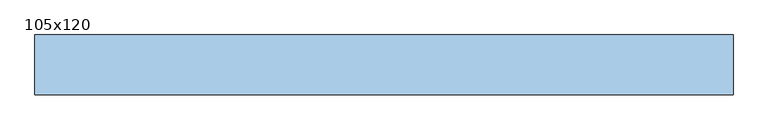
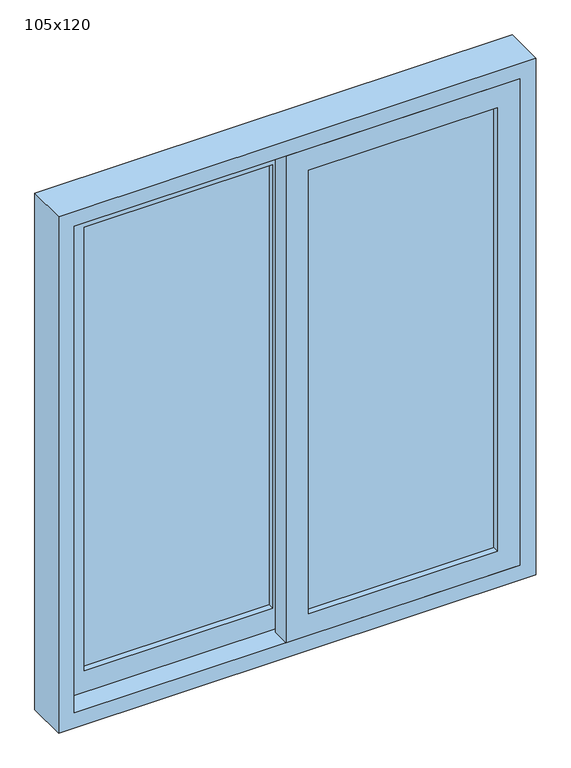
"""IFC4 building model written with IfcOpenShell, lengths in millimetres: window geometry, Janela de correr - 2 Painéis : 105x120."""

from ifc_helpers import new_model, si_unit, frame, origin, place, context, project, spatial, polyline, outline, extrude, source, transform, mapped, element, save


def window_105x120_428ac20c(model_context):
    return source(origin(), model_context, "Body", "SweptSolid", [
        extrude(outline(polyline([(1815.0, -25.0), (685.0, -25.0), (685.0, 490.0), (1815.0, 490.0), (1815.0, -25.0)]), holes=[polyline([(735.0, 25.0), (1765.0, 25.0), (1765.0, 440.0), (735.0, 440.0), (735.0, 25.0)])]), frame((0.0, -20.0, 0.0), z_axis=(0.0, 1.0, 0.0), x_axis=(0.0, 0.0, 1.0)), (0.0, 0.0, 1.0), 40.0),
        extrude(outline(polyline([(685.0, 25.0), (1815.0, 25.0), (1815.0, -490.0), (685.0, -490.0), (685.0, 25.0)]), holes=[polyline([(1765.0, -25.0), (735.0, -25.0), (735.0, -440.0), (1765.0, -440.0), (1765.0, -25.0)])]), frame((0.0, 30.0, 0.0), z_axis=(0.0, 1.0, 0.0), x_axis=(0.0, 0.0, 1.0)), (0.0, 0.0, 1.0), 40.0),
        extrude(outline(polyline([(650.0, 525.0), (1850.0, 525.0), (1850.0, -525.0), (650.0, -525.0), (650.0, 525.0)]), holes=[polyline([(1815.0, 490.0), (685.0, 490.0), (685.0, -490.0), (1815.0, -490.0), (1815.0, 490.0)])]), frame((0.0, -20.0, 0.0), z_axis=(0.0, 1.0, 0.0), x_axis=(0.0, 0.0, 1.0)), (0.0, 0.0, 1.0), 90.0),
        extrude(outline(polyline([(25.0, -7.0), (25.0, 7.0), (440.0, 7.0), (440.0, -7.0), (25.0, -7.0)])), frame((0.0, 0.0, 735.0), z_axis=(0.0, 0.0, 1.0), x_axis=(1.0, 0.0, 0.0)), (0.0, 0.0, 1.0), 1030.0),
        extrude(outline(polyline([(-440.0, 43.0), (-440.0, 57.0), (-25.0, 57.0), (-25.0, 43.0), (-440.0, 43.0)])), frame((0.0, 0.0, 735.0), z_axis=(0.0, 0.0, 1.0), x_axis=(1.0, 0.0, 0.0)), (0.0, 0.0, 1.0), 1030.0),
    ])


if __name__ == "__main__":
    model = new_model("IFC4")
    model_context = context("Model", 3, world=origin())
    ifc_project = project(units=[si_unit("LENGTHUNIT", "METRE", prefix="MILLI")], contexts=[model_context])
    site = spatial("IfcSite", under=ifc_project)
    building = spatial("IfcBuilding", under=site)
    placement = place(None, origin())
    window_105x120_shape = window_105x120_428ac20c(model_context)
    element("IfcWindow", 1, ObjectType="Janela de correr - 2 Painéis : 105x120", at=placement, inside=building, context=model_context, shape_type="MappedRepresentation", body=[
        mapped(window_105x120_shape, transform((0.0, 0.0, 0.0), x_axis=(1.0, 0.0, 0.0), y_axis=(0.0, 1.0, 0.0), z_axis=(0.0, 0.0, 1.0))),
    ])
    save(model, "model.ifc")
